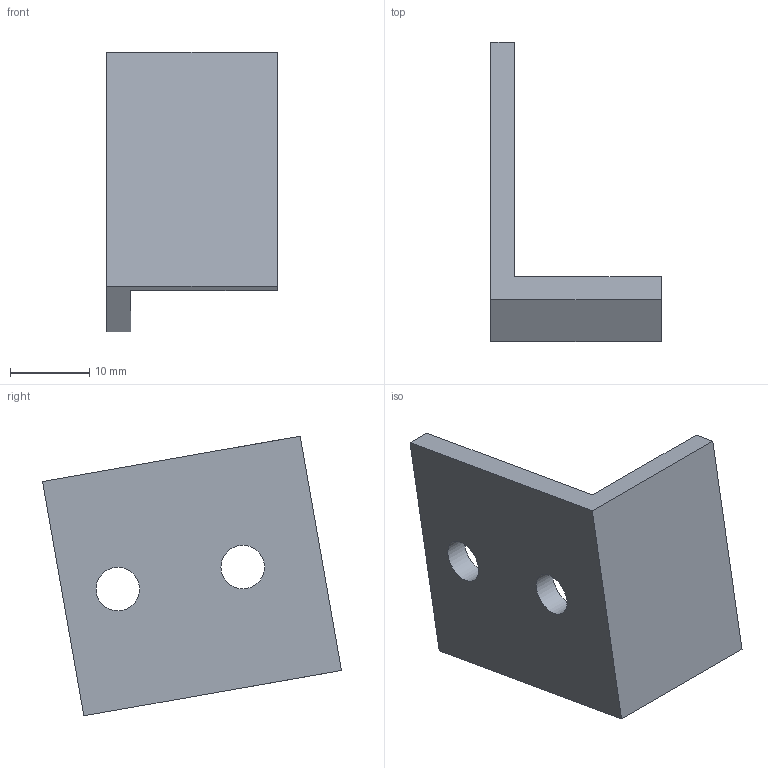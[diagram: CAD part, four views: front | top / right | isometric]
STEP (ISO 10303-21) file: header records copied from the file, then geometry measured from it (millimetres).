
FILE_DESCRIPTION(('golf model'),'2;1');
FILE_NAME('golf','',(''),(''),'golf_step_io','golf','');
FILE_SCHEMA(('AUTOMOTIVE_DESIGN { 1 0 10303 214 1 1 1 1 }'));
Length unit declared in the file: millimetre
Products named in the file (2): ASSEMBLY; sensors.z_home_bracket
Assembly tree (1 placements, depth 2):
  ASSEMBLY
    sensors.z_home_bracket
Bounding box: 21.5 x 37.71 x 35.27 mm (x, y, z)
Volume: 4492.5 mm3; surface area: 3587.6 mm2
Topology: 1 solids, 1 shells, 10 faces, 24 edges, 16 vertices
Faces by surface type: plane 8, cylinder 2
Full cylindrical faces by diameter (mm): 5.5 x2
Entity records: 324 total; most frequent: CARTESIAN_POINT 50, DIRECTION 50, ORIENTED_EDGE 44, EDGE_CURVE 22, VECTOR 18, LINE 18, AXIS2_PLACEMENT_3D 16, VERTEX_POINT 16
